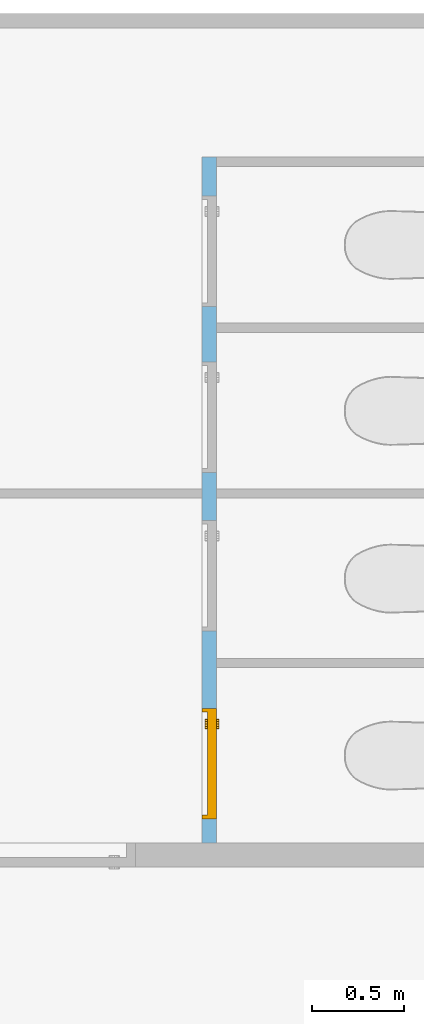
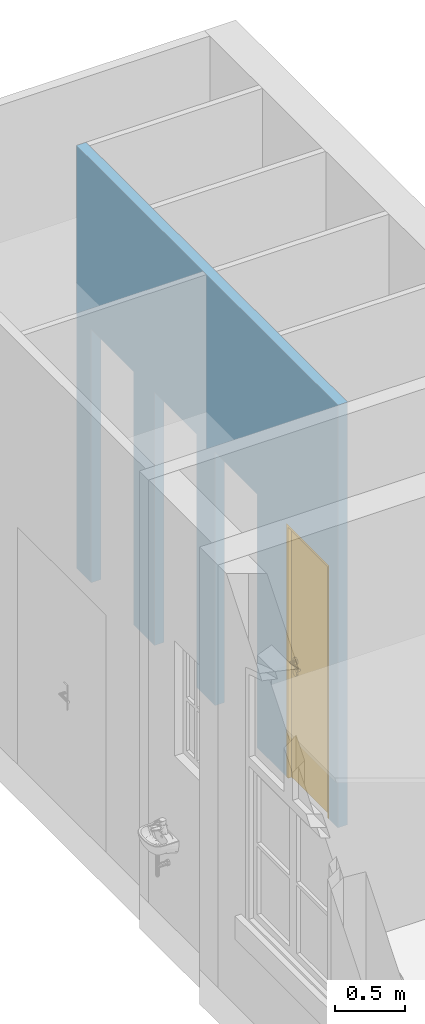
"""IFC4 building model written with IfcOpenShell, lengths in metres."""

from ifc_helpers import new_model, entity, si_unit, converted_unit, derived_unit, frame, frame_2d, origin, origin_with_axes, place, context, subcontext, project, spatial, polyline, rectangle, outline, extrude, faceted_brep, source, transform, mapped, material, layer, layer_set, layer_usage, type_object, element, fill, save


model = new_model("IFC4")

# Units and contexts
model_context = context("Model", 3, precision=1e-05, world=origin())
body_context = subcontext(model_context, "Body", "Model", "MODEL_VIEW")
ifc_project = project(units=[si_unit("LENGTHUNIT", "METRE"), si_unit("AREAUNIT", "SQUARE_METRE"), si_unit("VOLUMEUNIT", "CUBIC_METRE"), si_unit("MASSUNIT", "GRAM", prefix="KILO"), converted_unit("PLANEANGLEUNIT", "DEGREE", entity("IfcPlaneAngleMeasure", 0.0174532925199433), si_unit("PLANEANGLEUNIT", "RADIAN"), dimensions=[0, 0, 0, 0, 0, 0, 0]), derived_unit("THERMALTRANSMITTANCEUNIT", [(si_unit("POWERUNIT", "WATT"), 1), (si_unit("THERMODYNAMICTEMPERATUREUNIT", "KELVIN"), -1), (si_unit("LENGTHUNIT", "METRE"), -2)]), derived_unit("VOLUMETRICFLOWRATEUNIT", [(si_unit("LENGTHUNIT", "METRE"), 3), (converted_unit("TIMEUNIT", "hour", entity("IfcTimeMeasure", 3600.0), si_unit("TIMEUNIT", "SECOND"), dimensions=[0, 0, 1, 0, 0, 0, 0]), -1), (si_unit("LENGTHUNIT", "METRE"), -1)])], contexts=[model_context])

# Building, storeys
building_placement = place(None, origin())
building = spatial("IfcBuilding", under=ifc_project, at=building_placement, Name="Bestandsgebäude A - Sporthalle / Wohnhaus (TB 100-499)   ANPASSEN !!!", CompositionType="ELEMENT")
storey_1_placement = place(building_placement, origin())
storey_1 = spatial("IfcBuildingStorey", under=building, at=storey_1_placement, Name="Geb. A Erdgeschoss (TB 200-249)", CompositionType="ELEMENT", Elevation=0.0)
storey_2_placement = place(storey_1_placement, origin())
storey_2 = spatial("IfcBuildingStorey", under=storey_1, at=storey_2_placement, Name="Architektur (TB 200-209)", CompositionType="PARTIAL")

# Wall, openings, door
ifc_material = material(Name="masonry")
ifc_layer = layer(ifc_material, 0.08)
ifc_layer_set = layer_set([ifc_layer])
ifc_layer_usage = layer_usage(ifc_layer_set, "AXIS2", "POSITIVE", 0.0)
wall_placement = place(storey_2_placement, frame((-1.75999999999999, 20.98, 0.0), z_axis=(0.0, 0.0, 1.0), x_axis=(0.0, -1.0, 0.0)))
wall = element("IfcWall", 1, at=wall_placement, inside=storey_2, material=ifc_layer_usage, Name="masonry load-bearing", PredefinedType="USERDEFINED", context=body_context, shape_type="SweptSolid", body=[
    extrude(rectangle(XDim=3.72000000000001, YDim=0.08, at=frame_2d((1.86, 0.04), x_axis=(1.0, 0.0))), origin_with_axes(), (0.0, 0.0, 1.0), 3.67),
])
opening_1_placement = place(wall_placement, frame((0.210000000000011, 0.0, 0.0), z_axis=(0.0, 1.0, 0.0), x_axis=(0.0, 0.0, 1.0)))
element("IfcOpeningElement", 2, at=opening_1_placement, cuts=wall, Name="Door opening", PredefinedType="OPENING", context=body_context, shape_type="SweptSolid", body=[
    extrude(outline(polyline([(2.2, 0.6), (2.2, 0.0), (0.0, 0.0), (0.0, 0.6), (2.2, 0.6)])), origin_with_axes(), (0.0, 0.0, 1.0), 0.08),
])
opening_2_placement = place(wall_placement, frame((1.11000000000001, 0.0, 0.0), z_axis=(0.0, 1.0, 0.0), x_axis=(0.0, 0.0, 1.0)))
element("IfcOpeningElement", 3, at=opening_2_placement, cuts=wall, Name="Door opening", PredefinedType="OPENING", context=body_context, shape_type="SweptSolid", body=[
    extrude(outline(polyline([(2.2, 0.6), (2.2, 0.0), (0.0, 0.0), (0.0, 0.6), (2.2, 0.6)])), origin_with_axes(), (0.0, 0.0, 1.0), 0.08),
])
opening_3_placement = place(wall_placement, frame((2.99000000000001, 0.0, 0.0), z_axis=(0.0, 1.0, 0.0), x_axis=(0.0, 0.0, 1.0)))
opening_3 = element("IfcOpeningElement", 4, at=opening_3_placement, cuts=wall, Name="Door opening", PredefinedType="OPENING", context=body_context, shape_type="SweptSolid", body=[
    extrude(outline(polyline([(2.2, 0.6), (2.2, 0.0), (0.0, 0.0), (0.0, 0.6), (2.2, 0.6)])), origin_with_axes(), (0.0, 0.0, 1.0), 0.08),
])
opening_4_placement = place(wall_placement, frame((1.97000000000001, 0.0, 0.0), z_axis=(0.0, 1.0, 0.0), x_axis=(0.0, 0.0, 1.0)))
element("IfcOpeningElement", 5, at=opening_4_placement, cuts=wall, Name="Door opening", PredefinedType="OPENING", context=body_context, shape_type="SweptSolid", body=[
    extrude(outline(polyline([(2.2, 0.6), (2.2, 0.0), (0.0, 0.0), (0.0, 0.6), (2.2, 0.6)])), origin_with_axes(), (0.0, 0.0, 1.0), 0.08),
])
door_type = type_object("IfcDoorType", Name="door", OperationType="SINGLE_SWING_RIGHT", ParameterTakesPrecedence=False, PredefinedType="DOOR")
shared_shape = source(origin_with_axes(), body_context, "Body", "Brep", [
    faceted_brep([(0.0, 0.0800000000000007, 2.2), (0.0, 0.0800000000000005, 0.0), (0.0200000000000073, 0.0800000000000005, 0.0), (0.0200000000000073, 0.0800000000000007, 2.2), (0.0, 0.0, 0.0), (0.0, 0.0, 2.2), (0.0200000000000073, 0.0, 2.2), (0.0200000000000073, 0.0, 0.0)], [[[0, 1, 2, 3]], [[4, 5, 6, 7]], [[1, 0, 5, 4]], [[2, 1, 4, 7]], [[3, 2, 7, 6]], [[0, 3, 6, 5]]], orient=[[False], [False], [False], [False], [False], [False]]),
    faceted_brep([(0.580000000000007, 0.0800000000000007, 2.2), (0.580000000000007, 0.0800000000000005, 0.0), (0.600000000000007, 0.0800000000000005, 0.0), (0.600000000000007, 0.0800000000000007, 2.2), (0.580000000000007, 0.0, 0.0), (0.580000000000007, 0.0, 2.2), (0.600000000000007, 0.0, 2.2), (0.600000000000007, 0.0, 0.0)], [[[0, 1, 2, 3]], [[4, 5, 6, 7]], [[1, 0, 5, 4]], [[2, 1, 4, 7]], [[3, 2, 7, 6]], [[0, 3, 6, 5]]], orient=[[False], [False], [False], [False], [False], [False]]),
    faceted_brep([(0.0200000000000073, 0.0800000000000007, 2.2), (0.0200000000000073, 0.0800000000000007, 2.18), (0.580000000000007, 0.0800000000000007, 2.18), (0.580000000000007, 0.0800000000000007, 2.2), (0.0200000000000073, 0.0, 2.18), (0.0200000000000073, 0.0, 2.2), (0.580000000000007, 0.0, 2.2), (0.580000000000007, 0.0, 2.18)], [[[0, 1, 2, 3]], [[4, 5, 6, 7]], [[1, 0, 5, 4]], [[2, 1, 4, 7]], [[3, 2, 7, 6]], [[0, 3, 6, 5]]], orient=[[False], [False], [False], [False], [False], [False]]),
    faceted_brep([(0.0200000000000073, 0.0800000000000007, 2.18), (0.0200000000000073, 0.0800000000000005, 0.0), (0.580000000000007, 0.0800000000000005, 0.0), (0.580000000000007, 0.0800000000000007, 2.18), (0.0200000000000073, 0.0300000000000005, 0.0), (0.0200000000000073, 0.0300000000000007, 2.18), (0.580000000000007, 0.0300000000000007, 2.18), (0.580000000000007, 0.0300000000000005, 0.0)], [[[0, 1, 2, 3]], [[4, 5, 6, 7]], [[1, 0, 5, 4]], [[2, 1, 4, 7]], [[3, 2, 7, 6]], [[0, 3, 6, 5]]], orient=[[False], [False], [False], [False], [False], [False]]),
    faceted_brep([(0.108815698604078, 0.0300000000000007, 0.93625), (0.112500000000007, 0.0300000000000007, 0.95), (0.108815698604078, 0.0300000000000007, 0.96375), (0.0987500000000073, 0.0300000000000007, 0.973815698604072), (0.0850000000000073, 0.0300000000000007, 0.9775), (0.0712500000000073, 0.0300000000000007, 0.973815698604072), (0.0611843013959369, 0.0300000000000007, 0.96375), (0.0575000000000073, 0.0300000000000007, 0.95), (0.0611843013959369, 0.0300000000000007, 0.93625), (0.0712500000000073, 0.0300000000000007, 0.926184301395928), (0.0850000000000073, 0.0300000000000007, 0.9225), (0.0987500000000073, 0.0300000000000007, 0.926184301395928), (0.112500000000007, 0.0175000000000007, 0.95), (0.108815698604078, 0.0175000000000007, 0.93625), (0.0987500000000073, 0.0175000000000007, 0.926184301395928), (0.0850000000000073, 0.0175000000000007, 0.9225), (0.0712500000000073, 0.0175000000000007, 0.926184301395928), (0.0611843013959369, 0.0175000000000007, 0.93625), (0.0575000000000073, 0.0175000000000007, 0.95), (0.0611843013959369, 0.0175000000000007, 0.96375), (0.0712500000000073, 0.0175000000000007, 0.973815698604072), (0.0850000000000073, 0.0175000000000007, 0.9775), (0.0987500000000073, 0.0175000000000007, 0.973815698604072), (0.108815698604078, 0.0175000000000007, 0.96375)], [[[0, 1, 2, 3, 4, 5, 6, 7, 8, 9, 10, 11]], [[12, 13, 14, 15, 16, 17, 18, 19, 20, 21, 22, 23]], [[1, 0, 13, 12]], [[2, 1, 12, 23]], [[3, 2, 23, 22]], [[4, 3, 22, 21]], [[5, 4, 21, 20]], [[6, 5, 20, 19]], [[7, 6, 19, 18]], [[8, 7, 18, 17]], [[9, 8, 17, 16]], [[10, 9, 16, 15]], [[11, 10, 15, 14]], [[0, 11, 14, 13]]], orient=[[False], [False], [False], [False], [False], [False], [False], [False], [False], [False], [False], [False], [False], [False]]),
    faceted_brep([(0.108815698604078, 0.0300000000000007, 1.03625), (0.112500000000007, 0.0300000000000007, 1.05), (0.108815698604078, 0.0300000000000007, 1.06375), (0.0987500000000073, 0.0300000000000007, 1.07381569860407), (0.0850000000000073, 0.0300000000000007, 1.0775), (0.0712500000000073, 0.0300000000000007, 1.07381569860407), (0.0611843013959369, 0.0300000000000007, 1.06375), (0.0575000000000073, 0.0300000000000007, 1.05), (0.0611843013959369, 0.0300000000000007, 1.03625), (0.0712500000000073, 0.0300000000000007, 1.02618430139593), (0.0850000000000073, 0.0300000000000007, 1.0225), (0.0987500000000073, 0.0300000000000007, 1.02618430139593), (0.112500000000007, 0.0175000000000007, 1.05), (0.108815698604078, 0.0175000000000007, 1.03625), (0.0987500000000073, 0.0175000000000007, 1.02618430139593), (0.0850000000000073, 0.0175000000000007, 1.0225), (0.0712500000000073, 0.0175000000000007, 1.02618430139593), (0.0611843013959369, 0.0175000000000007, 1.03625), (0.0575000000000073, 0.0175000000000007, 1.05), (0.0611843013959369, 0.0175000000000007, 1.06375), (0.0712500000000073, 0.0175000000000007, 1.07381569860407), (0.0850000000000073, 0.0175000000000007, 1.0775), (0.0987500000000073, 0.0175000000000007, 1.07381569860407), (0.108815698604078, 0.0175000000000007, 1.06375)], [[[0, 1, 2, 3, 4, 5, 6, 7, 8, 9, 10, 11]], [[12, 13, 14, 15, 16, 17, 18, 19, 20, 21, 22, 23]], [[1, 0, 13, 12]], [[2, 1, 12, 23]], [[3, 2, 23, 22]], [[4, 3, 22, 21]], [[5, 4, 21, 20]], [[6, 5, 20, 19]], [[7, 6, 19, 18]], [[8, 7, 18, 17]], [[9, 8, 17, 16]], [[10, 9, 16, 15]], [[11, 10, 15, 14]], [[0, 11, 14, 13]]], orient=[[False], [False], [False], [False], [False], [False], [False], [False], [False], [False], [False], [False], [False], [False]]),
    faceted_brep([(0.0850000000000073, 0.0300000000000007, 1.06), (0.0800000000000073, 0.0300000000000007, 1.05866025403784), (0.0763397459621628, 0.0300000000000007, 1.055), (0.0750000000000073, 0.0300000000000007, 1.05), (0.0763397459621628, 0.0300000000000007, 1.045), (0.0800000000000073, 0.0300000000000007, 1.04133974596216), (0.0850000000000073, 0.0300000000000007, 1.04), (0.0900000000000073, 0.0300000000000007, 1.04133974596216), (0.0936602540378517, 0.0300000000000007, 1.045), (0.0950000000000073, 0.0300000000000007, 1.05), (0.0936602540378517, 0.0300000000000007, 1.055), (0.0900000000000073, 0.0300000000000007, 1.05866025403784), (0.0850000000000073, -0.00999999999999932, 1.06), (0.0800000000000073, -0.0149999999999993, 1.05866025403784), (0.0763397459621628, -0.0186602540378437, 1.055), (0.0750000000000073, -0.0199999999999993, 1.05), (0.0763397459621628, -0.0186602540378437, 1.045), (0.0800000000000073, -0.0149999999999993, 1.04133974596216), (0.0850000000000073, -0.00999999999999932, 1.04), (0.0900000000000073, -0.00499999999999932, 1.04133974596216), (0.0936602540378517, -0.00133974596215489, 1.045), (0.0950000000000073, 0.0, 1.05), (0.0936602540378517, -0.00133974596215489, 1.055), (0.0900000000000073, -0.00499999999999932, 1.05866025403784), (0.200000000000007, -0.00999999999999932, 1.06), (0.200000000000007, -0.00499999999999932, 1.05866025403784), (0.200000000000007, -0.00133974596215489, 1.055), (0.200000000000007, 0.0, 1.05), (0.200000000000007, -0.00133974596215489, 1.045), (0.200000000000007, -0.00499999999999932, 1.04133974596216), (0.200000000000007, -0.00999999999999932, 1.04), (0.200000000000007, -0.0149999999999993, 1.04133974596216), (0.200000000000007, -0.0186602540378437, 1.045), (0.200000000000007, -0.0199999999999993, 1.05), (0.200000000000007, -0.0186602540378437, 1.055), (0.200000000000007, -0.0149999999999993, 1.05866025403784)], [[[0, 1, 2, 3, 4, 5, 6, 7, 8, 9, 10, 11]], [[0, 12, 13, 1]], [[1, 13, 14, 2]], [[2, 14, 15, 3]], [[3, 15, 16, 4]], [[4, 16, 17, 5]], [[5, 17, 18, 6]], [[6, 18, 19, 7]], [[7, 19, 20, 8]], [[8, 20, 21, 9]], [[9, 21, 22, 10]], [[10, 22, 23, 11]], [[11, 23, 12, 0]], [[24, 25, 26, 27, 28, 29, 30, 31, 32, 33, 34, 35]], [[12, 24, 35, 13]], [[13, 35, 34, 14]], [[14, 34, 33, 15]], [[15, 33, 32, 16]], [[16, 32, 31, 17]], [[17, 31, 30, 18]], [[18, 30, 29, 19]], [[19, 29, 28, 20]], [[20, 28, 27, 21]], [[21, 27, 26, 22]], [[22, 26, 25, 23]], [[23, 25, 24, 12]]], orient=[[False], [False], [False], [False], [False], [False], [False], [False], [False], [False], [False], [False], [False], [False], [False], [False], [False], [False], [False], [False], [False], [False], [False], [False], [False], [False]]),
    faceted_brep([(0.108815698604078, 0.0800000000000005, 0.93625), (0.0987500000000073, 0.0800000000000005, 0.926184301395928), (0.0850000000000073, 0.0800000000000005, 0.9225), (0.0712500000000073, 0.0800000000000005, 0.926184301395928), (0.0611843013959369, 0.0800000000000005, 0.93625), (0.0575000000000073, 0.0800000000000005, 0.95), (0.0611843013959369, 0.0800000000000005, 0.96375), (0.0712500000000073, 0.0800000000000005, 0.973815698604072), (0.0850000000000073, 0.0800000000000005, 0.9775), (0.0987500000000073, 0.0800000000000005, 0.973815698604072), (0.108815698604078, 0.0800000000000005, 0.96375), (0.112500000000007, 0.0800000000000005, 0.95), (0.112500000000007, 0.0925000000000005, 0.95), (0.108815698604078, 0.0925000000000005, 0.96375), (0.0987500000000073, 0.0925000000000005, 0.973815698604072), (0.0850000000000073, 0.0925000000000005, 0.9775), (0.0712500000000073, 0.0925000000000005, 0.973815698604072), (0.0611843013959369, 0.0925000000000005, 0.96375), (0.0575000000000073, 0.0925000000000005, 0.95), (0.0611843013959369, 0.0925000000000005, 0.93625), (0.0712500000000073, 0.0925000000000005, 0.926184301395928), (0.0850000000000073, 0.0925000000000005, 0.9225), (0.0987500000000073, 0.0925000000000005, 0.926184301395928), (0.108815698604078, 0.0925000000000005, 0.93625)], [[[0, 1, 2, 3, 4, 5, 6, 7, 8, 9, 10, 11]], [[12, 13, 14, 15, 16, 17, 18, 19, 20, 21, 22, 23]], [[11, 12, 23, 0]], [[10, 13, 12, 11]], [[9, 14, 13, 10]], [[8, 15, 14, 9]], [[7, 16, 15, 8]], [[6, 17, 16, 7]], [[5, 18, 17, 6]], [[4, 19, 18, 5]], [[3, 20, 19, 4]], [[2, 21, 20, 3]], [[1, 22, 21, 2]], [[0, 23, 22, 1]]], orient=[[False], [False], [False], [False], [False], [False], [False], [False], [False], [False], [False], [False], [False], [False]]),
    faceted_brep([(0.108815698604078, 0.0800000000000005, 1.03625), (0.0987500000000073, 0.0800000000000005, 1.02618430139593), (0.0850000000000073, 0.0800000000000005, 1.0225), (0.0712500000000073, 0.0800000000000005, 1.02618430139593), (0.0611843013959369, 0.0800000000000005, 1.03625), (0.0575000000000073, 0.0800000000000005, 1.05), (0.0611843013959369, 0.0800000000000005, 1.06375), (0.0712500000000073, 0.0800000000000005, 1.07381569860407), (0.0850000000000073, 0.0800000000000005, 1.0775), (0.0987500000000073, 0.0800000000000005, 1.07381569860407), (0.108815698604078, 0.0800000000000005, 1.06375), (0.112500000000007, 0.0800000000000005, 1.05), (0.112500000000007, 0.0925000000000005, 1.05), (0.108815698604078, 0.0925000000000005, 1.06375), (0.0987500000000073, 0.0925000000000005, 1.07381569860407), (0.0850000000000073, 0.0925000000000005, 1.0775), (0.0712500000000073, 0.0925000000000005, 1.07381569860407), (0.0611843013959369, 0.0925000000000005, 1.06375), (0.0575000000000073, 0.0925000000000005, 1.05), (0.0611843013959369, 0.0925000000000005, 1.03625), (0.0712500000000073, 0.0925000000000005, 1.02618430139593), (0.0850000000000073, 0.0925000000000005, 1.0225), (0.0987500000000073, 0.0925000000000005, 1.02618430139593), (0.108815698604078, 0.0925000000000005, 1.03625)], [[[0, 1, 2, 3, 4, 5, 6, 7, 8, 9, 10, 11]], [[12, 13, 14, 15, 16, 17, 18, 19, 20, 21, 22, 23]], [[11, 12, 23, 0]], [[10, 13, 12, 11]], [[9, 14, 13, 10]], [[8, 15, 14, 9]], [[7, 16, 15, 8]], [[6, 17, 16, 7]], [[5, 18, 17, 6]], [[4, 19, 18, 5]], [[3, 20, 19, 4]], [[2, 21, 20, 3]], [[1, 22, 21, 2]], [[0, 23, 22, 1]]], orient=[[False], [False], [False], [False], [False], [False], [False], [False], [False], [False], [False], [False], [False], [False]]),
    faceted_brep([(0.0850000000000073, 0.0800000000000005, 1.06), (0.0900000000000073, 0.0800000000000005, 1.05866025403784), (0.0936602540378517, 0.0800000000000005, 1.055), (0.0950000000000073, 0.0800000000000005, 1.05), (0.0936602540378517, 0.0800000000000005, 1.045), (0.0900000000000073, 0.0800000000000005, 1.04133974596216), (0.0850000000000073, 0.0800000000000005, 1.04), (0.0800000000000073, 0.0800000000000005, 1.04133974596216), (0.0763397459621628, 0.0800000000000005, 1.045), (0.0750000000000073, 0.0800000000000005, 1.05), (0.0763397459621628, 0.0800000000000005, 1.055), (0.0800000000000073, 0.0800000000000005, 1.05866025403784), (0.0800000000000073, 0.125, 1.05866025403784), (0.0850000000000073, 0.12, 1.06), (0.0763397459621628, 0.128660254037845, 1.055), (0.0750000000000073, 0.13, 1.05), (0.0763397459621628, 0.128660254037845, 1.045), (0.0800000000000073, 0.125, 1.04133974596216), (0.0850000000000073, 0.12, 1.04), (0.0900000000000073, 0.115, 1.04133974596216), (0.0936602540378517, 0.111339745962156, 1.045), (0.0950000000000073, 0.11, 1.05), (0.0936602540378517, 0.111339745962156, 1.055), (0.0900000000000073, 0.115, 1.05866025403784), (0.200000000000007, 0.12, 1.06), (0.200000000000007, 0.125, 1.05866025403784), (0.200000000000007, 0.128660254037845, 1.055), (0.200000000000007, 0.13, 1.05), (0.200000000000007, 0.128660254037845, 1.045), (0.200000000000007, 0.125, 1.04133974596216), (0.200000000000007, 0.12, 1.04), (0.200000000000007, 0.115, 1.04133974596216), (0.200000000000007, 0.111339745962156, 1.045), (0.200000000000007, 0.11, 1.05), (0.200000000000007, 0.111339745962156, 1.055), (0.200000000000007, 0.115, 1.05866025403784)], [[[0, 1, 2, 3, 4, 5, 6, 7, 8, 9, 10, 11]], [[0, 11, 12, 13]], [[11, 10, 14, 12]], [[10, 9, 15, 14]], [[9, 8, 16, 15]], [[8, 7, 17, 16]], [[7, 6, 18, 17]], [[6, 5, 19, 18]], [[5, 4, 20, 19]], [[4, 3, 21, 20]], [[3, 2, 22, 21]], [[2, 1, 23, 22]], [[1, 0, 13, 23]], [[24, 25, 26, 27, 28, 29, 30, 31, 32, 33, 34, 35]], [[13, 12, 25, 24]], [[12, 14, 26, 25]], [[14, 15, 27, 26]], [[15, 16, 28, 27]], [[16, 17, 29, 28]], [[17, 18, 30, 29]], [[18, 19, 31, 30]], [[19, 20, 32, 31]], [[20, 21, 33, 32]], [[21, 22, 34, 33]], [[22, 23, 35, 34]], [[23, 13, 24, 35]]], orient=[[False], [False], [False], [False], [False], [False], [False], [False], [False], [False], [False], [False], [False], [False], [False], [False], [False], [False], [False], [False], [False], [False], [False], [False], [False], [False]]),
])
door_placement = place(opening_3_placement, frame((0.0, 0.0, 0.0), z_axis=(1.0, 0.0, 0.0), x_axis=(0.0, 1.0, 0.0)))
door = element("IfcDoor", 6, at=door_placement, inside=storey_2, type_object=door_type, Name="door", OverallHeight=2.2, OverallWidth=0.6, PredefinedType="DOOR", context=body_context, shape_type="MappedRepresentation", body=[
    mapped(shared_shape, transform((0.0, 0.0, 0.0), x_axis=(1.0, 0.0, 0.0), y_axis=(0.0, 1.0, 0.0), z_axis=(0.0, 0.0, 1.0), scale=1.0)),
])
fill(opening_3, door)

save(model, "model.ifc")
